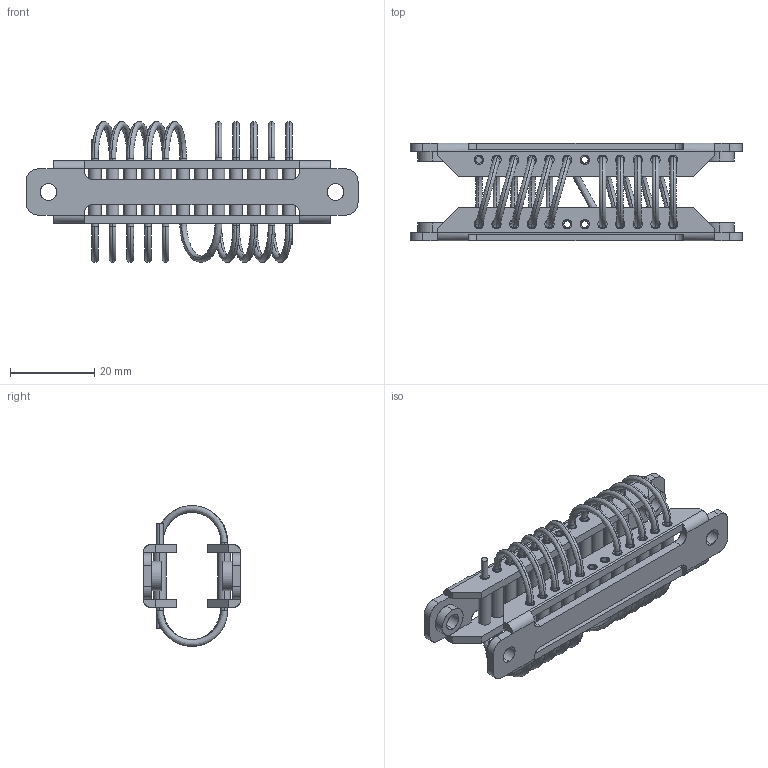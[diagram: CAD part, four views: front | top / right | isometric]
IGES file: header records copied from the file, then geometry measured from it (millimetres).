
Start section: SolidWorks IGES file using analytic representation for surfaces
Bounding box: 79 x 23.3 x 33.49 mm (x, y, z)
Surface area: 14409.6 mm2 (no closed solid volume)
Topology: 0 solids, 0 shells, 287 faces, 7481 edges, 7481 vertices
Faces by surface type: bspline 155, revolution 132
